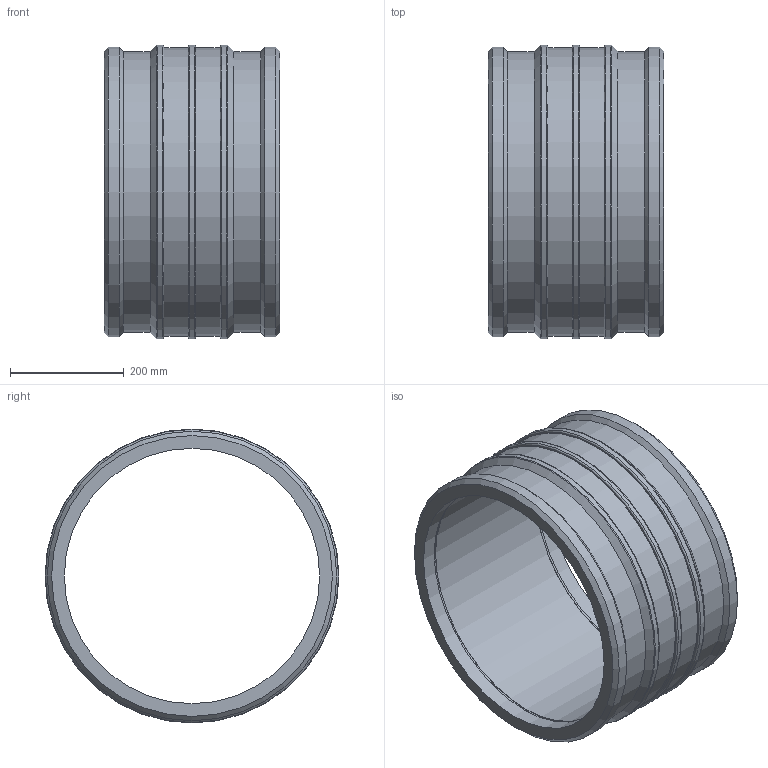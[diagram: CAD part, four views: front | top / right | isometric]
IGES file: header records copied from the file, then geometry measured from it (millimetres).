
Global section: file name: 460103450.ipt; native system: Autodesk Inventor 2015; preprocessor: unknown; author: KIM; date: 20190124.125924; units: millimetre
Bounding box: 310 x 518 x 518 mm (x, y, z)
Volume: 12691619.4 mm3; surface area: 1060665.9 mm2
Topology: 1 solids, 1 shells, 48 faces, 106 edges, 70 vertices
Faces by surface type: cylinder 15, plane 14, revolution 13, cone 6
Full cylindrical faces by diameter (mm): 4 x2, 494.7 x2, 507.64 x2, 510 x2, 518 x3
